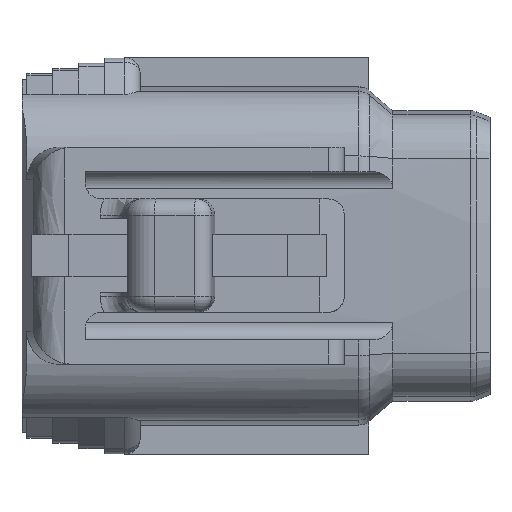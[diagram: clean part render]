
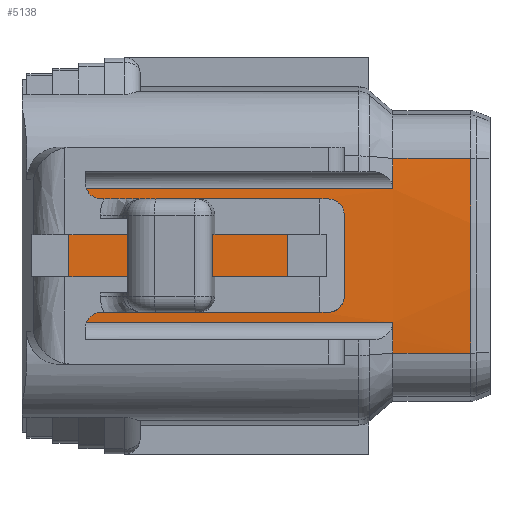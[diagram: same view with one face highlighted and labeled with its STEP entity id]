
A CAD part, top view. The second image highlights one B-rep face of the part: STEP entity #5138.
In plain terms, the highlighted cylindrical face has radius 60 mm (diameter 120 mm), a partial arc.
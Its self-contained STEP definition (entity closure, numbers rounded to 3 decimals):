
#380=CARTESIAN_POINT('Vertex',(-6.,10.314,6.398)) ;
#383=CARTESIAN_POINT('Line Origine',(0.,10.314,6.398)) ;
#387=CARTESIAN_POINT('Vertex',(-1.193,10.314,6.398)) ;
#469=CARTESIAN_POINT('Line Origine',(0.,-1.714,6.398)) ;
#473=CARTESIAN_POINT('Vertex',(-6.,-1.714,6.398)) ;
#475=CARTESIAN_POINT('Vertex',(-1.193,-1.714,6.398)) ;
#863=CARTESIAN_POINT('Axis2P3D Location',(-1.193,4.3,-53.3)) ;
#4993=CARTESIAN_POINT('Vertex',(-6.,0.169,6.558)) ;
#4996=CARTESIAN_POINT('Line Origine',(-13.596,0.169,6.558)) ;
#5000=CARTESIAN_POINT('Vertex',(-26.,0.169,6.558)) ;
#5020=CARTESIAN_POINT('Axis2P3D Location',(-6.,4.3,-53.3)) ;
#5024=CARTESIAN_POINT('Vertex',(-6.,-0.9,6.474)) ;
#5028=CARTESIAN_POINT('Control Point',(-6.,-0.9,6.474)) ;
#5029=CARTESIAN_POINT('Control Point',(-6.,-0.544,6.505)) ;
#5030=CARTESIAN_POINT('Control Point',(-6.,-0.188,6.533)) ;
#5031=CARTESIAN_POINT('Control Point',(-6.,0.169,6.558)) ;
#5094=CARTESIAN_POINT('Axis2P3D Location',(0.,4.3,-53.3)) ;
#5099=CARTESIAN_POINT('Axis2P3D Location',(-26.,4.3,-53.3)) ;
#5103=CARTESIAN_POINT('Vertex',(-26.,8.431,6.558)) ;
#5106=CARTESIAN_POINT('Axis2P3D Location',(-6.,4.3,-53.3)) ;
#5110=CARTESIAN_POINT('Vertex',(-6.,9.5,6.474)) ;
#5114=CARTESIAN_POINT('Control Point',(-6.,9.5,6.474)) ;
#5115=CARTESIAN_POINT('Control Point',(-6.,9.144,6.505)) ;
#5116=CARTESIAN_POINT('Control Point',(-6.,8.788,6.533)) ;
#5117=CARTESIAN_POINT('Control Point',(-6.,8.431,6.558)) ;
#5118=CARTESIAN_POINT('Vertex',(-6.,8.431,6.558)) ;
#5121=CARTESIAN_POINT('Line Origine',(0.,8.431,6.558)) ;
#384=DIRECTION('Vector Direction',(1.,0.,0.)) ;
#470=DIRECTION('Vector Direction',(1.,0.,0.)) ;
#864=DIRECTION('Axis2P3D Direction',(1.,0.,0.)) ;
#4997=DIRECTION('Vector Direction',(1.,0.,0.)) ;
#5021=DIRECTION('Axis2P3D Direction',(1.,0.,0.)) ;
#5095=DIRECTION('Axis2P3D Direction',(1.,0.,0.)) ;
#5096=DIRECTION('Axis2P3D XDirection',(0.,0.1,0.995)) ;
#5100=DIRECTION('Axis2P3D Direction',(1.,0.,0.)) ;
#5107=DIRECTION('Axis2P3D Direction',(1.,0.,0.)) ;
#5122=DIRECTION('Vector Direction',(1.,0.,0.)) ;
#865=AXIS2_PLACEMENT_3D('Circle Axis2P3D',#863,#864,$) ;
#5022=AXIS2_PLACEMENT_3D('Circle Axis2P3D',#5020,#5021,$) ;
#5097=AXIS2_PLACEMENT_3D('Cylinder Axis2P3D',#5094,#5095,#5096) ;
#5101=AXIS2_PLACEMENT_3D('Circle Axis2P3D',#5099,#5100,$) ;
#5108=AXIS2_PLACEMENT_3D('Circle Axis2P3D',#5106,#5107,$) ;
#5127=ORIENTED_EDGE('',*,*,#5105,.F.) ;
#5128=ORIENTED_EDGE('',*,*,#5002,.F.) ;
#5129=ORIENTED_EDGE('',*,*,#5032,.T.) ;
#5130=ORIENTED_EDGE('',*,*,#5026,.T.) ;
#5131=ORIENTED_EDGE('',*,*,#477,.T.) ;
#5132=ORIENTED_EDGE('',*,*,#867,.T.) ;
#5133=ORIENTED_EDGE('',*,*,#389,.F.) ;
#5134=ORIENTED_EDGE('',*,*,#5112,.T.) ;
#5135=ORIENTED_EDGE('',*,*,#5120,.T.) ;
#5136=ORIENTED_EDGE('',*,*,#5125,.T.) ;
#385=VECTOR('Line Direction',#384,1.) ;
#471=VECTOR('Line Direction',#470,1.) ;
#4998=VECTOR('Line Direction',#4997,1.) ;
#5123=VECTOR('Line Direction',#5122,1.) ;
#5138=ADVANCED_FACE('\X2\FF8AFF9FFF70FF82\X0\ \X2\FF8EFF9EFF83FF9EFF68FF70\X0\',(#5137),#5098,.T.) ;
#5027=B_SPLINE_CURVE_WITH_KNOTS('',3,(#5028,#5029,#5030,#5031),.UNSPECIFIED.,.F.,.U.,(4,4),(0.,2.084),.UNSPECIFIED.) ;
#5113=B_SPLINE_CURVE_WITH_KNOTS('',3,(#5114,#5115,#5116,#5117),.UNSPECIFIED.,.F.,.U.,(4,4),(0.,2.084),.UNSPECIFIED.) ;
#866=CIRCLE('generated circle',#865,60.) ;
#5023=CIRCLE('generated circle',#5022,60.) ;
#5102=CIRCLE('generated circle',#5101,60.) ;
#5109=CIRCLE('generated circle',#5108,60.) ;
#5098=CYLINDRICAL_SURFACE('generated cylinder',#5097,60.) ;
#389=EDGE_CURVE('',#381,#388,#386,.T.) ;
#477=EDGE_CURVE('',#474,#476,#472,.T.) ;
#867=EDGE_CURVE('',#476,#388,#866,.F.) ;
#5002=EDGE_CURVE('',#4994,#5001,#4999,.F.) ;
#5026=EDGE_CURVE('',#5025,#474,#5023,.T.) ;
#5032=EDGE_CURVE('',#4994,#5025,#5027,.F.) ;
#5105=EDGE_CURVE('',#5001,#5104,#5102,.F.) ;
#5112=EDGE_CURVE('',#381,#5111,#5109,.T.) ;
#5120=EDGE_CURVE('',#5111,#5119,#5113,.T.) ;
#5125=EDGE_CURVE('',#5119,#5104,#5124,.F.) ;
#5126=EDGE_LOOP('',(#5127,#5128,#5129,#5130,#5131,#5132,#5133,#5134,#5135,#5136)) ;
#5137=FACE_OUTER_BOUND('',#5126,.T.) ;
#386=LINE('Line',#383,#385) ;
#472=LINE('Line',#469,#471) ;
#4999=LINE('Line',#4996,#4998) ;
#5124=LINE('Line',#5121,#5123) ;
#381=VERTEX_POINT('',#380) ;
#388=VERTEX_POINT('',#387) ;
#474=VERTEX_POINT('',#473) ;
#476=VERTEX_POINT('',#475) ;
#4994=VERTEX_POINT('',#4993) ;
#5001=VERTEX_POINT('',#5000) ;
#5025=VERTEX_POINT('',#5024) ;
#5104=VERTEX_POINT('',#5103) ;
#5111=VERTEX_POINT('',#5110) ;
#5119=VERTEX_POINT('',#5118) ;
